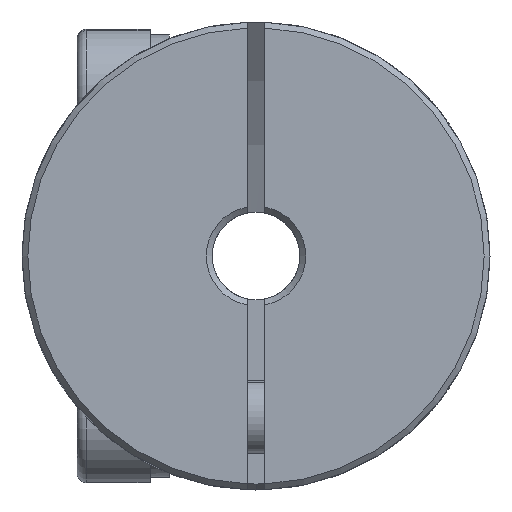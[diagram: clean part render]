
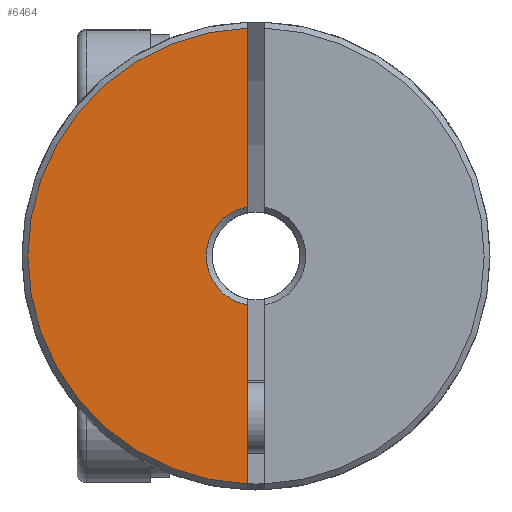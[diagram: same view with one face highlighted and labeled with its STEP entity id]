
A CAD part, front view. The second image highlights one B-rep face of the part: STEP entity #6464.
In plain terms, the highlighted planar face has unit normal (0, -1, 0).
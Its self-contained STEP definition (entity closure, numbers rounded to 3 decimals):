
#186 = VERTEX_POINT ( 'NONE', #7345 ) ;
#266 = CARTESIAN_POINT ( 'NONE',  ( 0., -15.02, 0. ) ) ;
#654 = LINE ( 'NONE', #2055, #1568 ) ;
#856 = VERTEX_POINT ( 'NONE', #6498 ) ;
#890 = ORIENTED_EDGE ( 'NONE', *, *, #6057, .T. ) ;
#902 = AXIS2_PLACEMENT_3D ( 'NONE', #266, #1943, #1354 ) ;
#926 = DIRECTION ( 'NONE',  ( 0., 0., -1. ) ) ;
#1054 = CARTESIAN_POINT ( 'NONE',  ( 0., -15.02, 0. ) ) ;
#1347 = CARTESIAN_POINT ( 'NONE',  ( -0.3, -15.02, 0. ) ) ;
#1354 = DIRECTION ( 'NONE',  ( 0., 0., 1. ) ) ;
#1568 = VECTOR ( 'NONE', #926, 1000. ) ;
#1601 = ORIENTED_EDGE ( 'NONE', *, *, #3182, .T. ) ;
#1644 = DIRECTION ( 'NONE',  ( 0., 1., 0. ) ) ;
#1943 = DIRECTION ( 'NONE',  ( 0., -1., 0. ) ) ;
#2055 = CARTESIAN_POINT ( 'NONE',  ( -0.3, -15.02, 0. ) ) ;
#2675 = DIRECTION ( 'NONE',  ( 0., 0., 1. ) ) ;
#2854 = EDGE_CURVE ( 'NONE', #4821, #4517, #654, .T. ) ;
#2969 = FACE_OUTER_BOUND ( 'NONE', #4717, .T. ) ;
#3182 = EDGE_CURVE ( 'NONE', #4821, #856, #5253, .T. ) ;
#3661 = EDGE_CURVE ( 'NONE', #186, #856, #7016, .T. ) ;
#3864 = AXIS2_PLACEMENT_3D ( 'NONE', #5405, #5991, #5317 ) ;
#4517 = VERTEX_POINT ( 'NONE', #4801 ) ;
#4717 = EDGE_LOOP ( 'NONE', ( #7127, #1601, #4793, #890 ) ) ;
#4793 = ORIENTED_EDGE ( 'NONE', *, *, #3661, .F. ) ;
#4801 = CARTESIAN_POINT ( 'NONE',  ( -0.3, -15.02, 1.673 ) ) ;
#4821 = VERTEX_POINT ( 'NONE', #7545 ) ;
#4978 = AXIS2_PLACEMENT_3D ( 'NONE', #1054, #1644, #2675 ) ;
#5253 = CIRCLE ( 'NONE', #902, 7.8 ) ;
#5317 = DIRECTION ( 'NONE',  ( 0., 0., 1. ) ) ;
#5405 = CARTESIAN_POINT ( 'NONE',  ( 0., -15.02, 0. ) ) ;
#5483 = DIRECTION ( 'NONE',  ( 0., 0., -1. ) ) ;
#5811 = VECTOR ( 'NONE', #5483, 1000. ) ;
#5991 = DIRECTION ( 'NONE',  ( 0., 1., 0. ) ) ;
#6057 = EDGE_CURVE ( 'NONE', #186, #4517, #7168, .T. ) ;
#6464 = ADVANCED_FACE ( 'NONE', ( #2969 ), #6951, .F. ) ;
#6498 = CARTESIAN_POINT ( 'NONE',  ( -0.3, -15.02, -7.794 ) ) ;
#6951 = PLANE ( 'NONE',  #4978 ) ;
#7016 = LINE ( 'NONE', #1347, #5811 ) ;
#7127 = ORIENTED_EDGE ( 'NONE', *, *, #2854, .F. ) ;
#7168 = CIRCLE ( 'NONE', #3864, 1.7 ) ;
#7345 = CARTESIAN_POINT ( 'NONE',  ( -0.3, -15.02, -1.673 ) ) ;
#7545 = CARTESIAN_POINT ( 'NONE',  ( -0.3, -15.02, 7.794 ) ) ;
